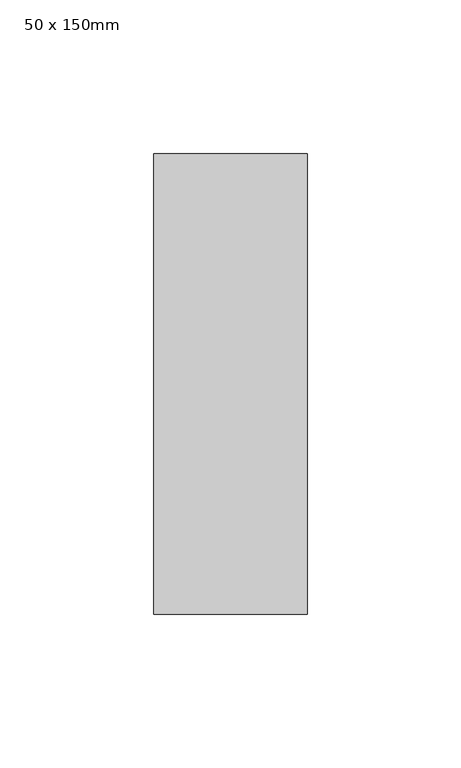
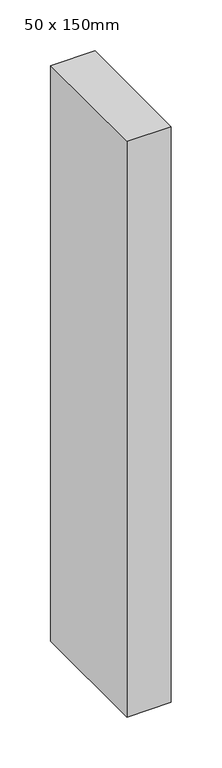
"""IFC4 building model written with IfcOpenShell, lengths in millimetres: member geometry, Прямоугольный импост : 50 x 150mm."""

from ifc_helpers import new_model, si_unit, frame, origin, place, context, project, spatial, polyline, outline, extrude, source, transform, mapped, element, save


def member_50_x_150mm_9f073af5(model_context):
    return source(origin(), model_context, "Body", "SweptSolid", [
        extrude(outline(polyline([(0.0, 75.0), (0.0, -75.0), (-50.0, -75.0), (-50.0, 75.0), (0.0, 75.0)])), frame((0.0, 0.0, -690.0), z_axis=(0.0, 0.0, 1.0), x_axis=(1.0, 0.0, 0.0)), (0.0, 0.0, 1.0), 690.0),
    ])


if __name__ == "__main__":
    model = new_model("IFC4")
    model_context = context("Model", 3, world=origin())
    ifc_project = project(units=[si_unit("LENGTHUNIT", "METRE", prefix="MILLI")], contexts=[model_context])
    site = spatial("IfcSite", under=ifc_project)
    building = spatial("IfcBuilding", under=site)
    placement = place(None, origin())
    member_50_x_150mm_shape = member_50_x_150mm_9f073af5(model_context)
    element("IfcMember", 1, ObjectType="Прямоугольный импост : 50 x 150mm", at=placement, inside=building, context=model_context, shape_type="MappedRepresentation", body=[
        mapped(member_50_x_150mm_shape, transform((0.0, 0.0, 0.0), x_axis=(1.0, 0.0, 0.0), y_axis=(0.0, 1.0, 0.0), z_axis=(0.0, 0.0, 1.0))),
    ])
    save(model, "model.ifc")
